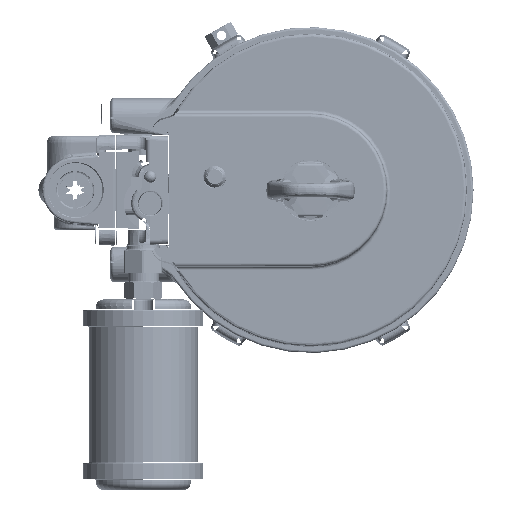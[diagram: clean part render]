
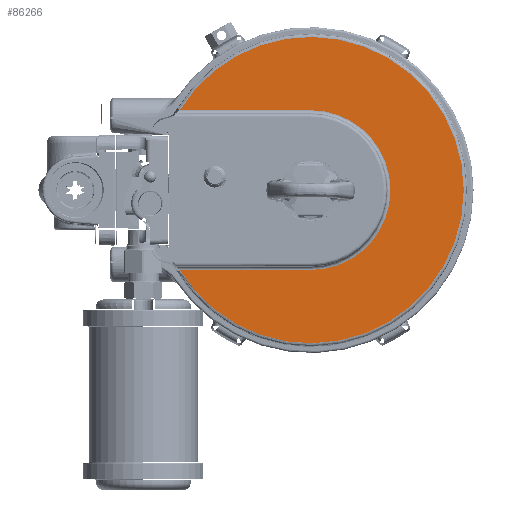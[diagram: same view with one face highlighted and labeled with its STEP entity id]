
A CAD part, left-side view. The second image highlights one B-rep face of the part: STEP entity #86266.
In plain terms, the highlighted planar face has unit normal (-1, 0, 0).
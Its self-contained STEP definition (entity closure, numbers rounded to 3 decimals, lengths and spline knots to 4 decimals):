
#73370=CARTESIAN_POINT('',(-6.81,0.,0.));
#73371=DIRECTION('',(-1.,0.,0.));
#73372=DIRECTION('',(0.,0.853,-0.522));
#73373=AXIS2_PLACEMENT_3D('',#73370,#73371,#73372);
#73375=DIRECTION('',(0.,-1.,0.));
#73376=VECTOR('',#73375,3.4289);
#73377=CARTESIAN_POINT('',(-6.81,3.4289,
-2.0969));
#73378=LINE('',#73377,#73376);
#73379=CARTESIAN_POINT('',(-6.81,0.,0.));
#73380=DIRECTION('',(-1.,0.,0.));
#73381=DIRECTION('',(0.,0.,-1.));
#73382=AXIS2_PLACEMENT_3D('',#73379,#73380,#73381);
#73384=DIRECTION('',(0.,1.,0.));
#73385=VECTOR('',#73384,3.4289);
#73386=CARTESIAN_POINT('',(-6.81,0.,2.0969));
#73387=LINE('',#73386,#73385);
#75800=CARTESIAN_POINT('',(-6.81,3.4289,
2.0969));
#83688=CARTESIAN_POINT('',(-6.81,0.,-2.0969));
#83689=CARTESIAN_POINT('',(-6.81,0.,2.0969));
#83690=VERTEX_POINT('',#83688);
#83691=VERTEX_POINT('',#83689);
#83784=VERTEX_POINT('',#75800);
#83788=CARTESIAN_POINT('',(-6.81,3.4289,
-2.0969));
#83789=VERTEX_POINT('',#83788);
#86251=CARTESIAN_POINT('',(-6.81,0.,0.));
#86252=DIRECTION('',(-1.,0.,0.));
#86253=DIRECTION('',(0.,0.,1.));
#86254=AXIS2_PLACEMENT_3D('',#86251,#86252,#86253);
#86255=PLANE('',#86254);
#86257=ORIENTED_EDGE('',*,*,#86256,.F.);
#86259=ORIENTED_EDGE('',*,*,#86258,.T.);
#86261=ORIENTED_EDGE('',*,*,#86260,.T.);
#86263=ORIENTED_EDGE('',*,*,#86262,.T.);
#86264=EDGE_LOOP('',(#86257,#86259,#86261,#86263));
#86265=FACE_OUTER_BOUND('',#86264,.F.);
#86266=ADVANCED_FACE('',(#86265),#86255,.T.);
#73374=CIRCLE('',#73373,4.0193);
#73383=CIRCLE('',#73382,2.0969);
#86256=EDGE_CURVE('',#83789,#83784,#73374,.T.);
#86258=EDGE_CURVE('',#83789,#83690,#73378,.T.);
#86260=EDGE_CURVE('',#83690,#83691,#73383,.T.);
#86262=EDGE_CURVE('',#83691,#83784,#73387,.T.);
